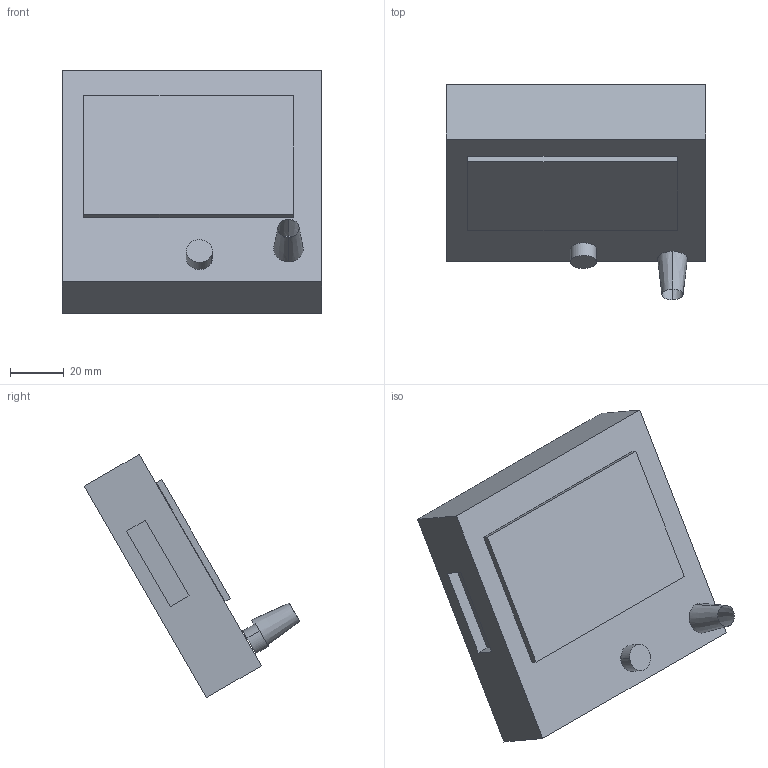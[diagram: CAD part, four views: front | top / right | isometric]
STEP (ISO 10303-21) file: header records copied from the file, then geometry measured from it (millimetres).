
FILE_DESCRIPTION(/* description */ (''),/* implementation_level */ '2;1');
FILE_NAME(/* name */ 'LCD',/* time_stamp */ '2019-04-01T20:05:34-03:00',/* author */ (''),/* organization */ (''),/* preprocessor_version */ 'ST-DEVELOPER v16.5',/* originating_system */ '',/* authorisation */ '');
FILE_SCHEMA (('AUTOMOTIVE_DESIGN'));
Length unit declared in the file: millimetre
Products named in the file (1): Document
Bounding box: 96.5 x 80.11 x 90.45 mm (x, y, z)
Volume: 215479.7 mm3; surface area: 36082.6 mm2
Topology: 3 solids, 4 shells, 23 faces, 48 edges, 32 vertices
Faces by surface type: plane 19, bspline 4
Entity records: 613 total; most frequent: CARTESIAN_POINT 238, ORIENTED_EDGE 92, EDGE_CURVE 48, B_SPLINE_CURVE_WITH_KNOTS 36, VERTEX_POINT 32, DIRECTION 25, EDGE_LOOP 24, ADVANCED_FACE 23
